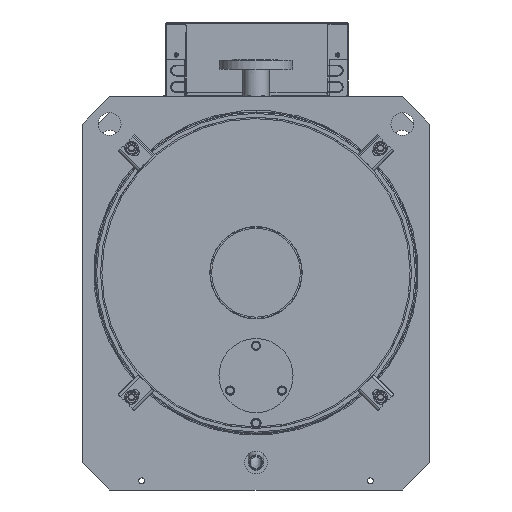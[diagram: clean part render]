
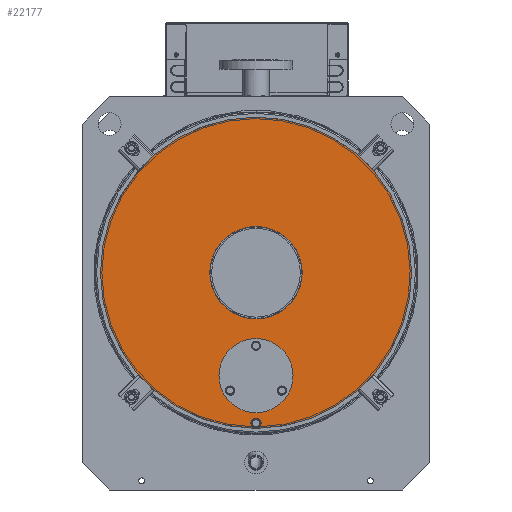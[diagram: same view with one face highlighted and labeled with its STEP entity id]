
A CAD part, left-side view. The second image highlights one B-rep face of the part: STEP entity #22177.
In plain terms, the highlighted planar face has unit normal (-1, 0, 0).
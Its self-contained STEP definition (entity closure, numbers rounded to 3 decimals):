
#22177=ADVANCED_FACE('',(#64227,#64229,#64231),#64233,.T.);
#64227=FACE_BOUND('',#64228,.T.);
#64228=EDGE_LOOP('',(#98627,#98628,#98629,#98630,#98631));
#64229=FACE_BOUND('',#64230,.T.);
#64230=EDGE_LOOP('',(#98632));
#64231=FACE_BOUND('',#64232,.T.);
#64232=EDGE_LOOP('',(#98633));
#64233=PLANE('',#64234);
#64234=AXIS2_PLACEMENT_3D('',#64235,#64236,#64237);
#64235=CARTESIAN_POINT('',(-905.,0.,0.));
#64236=DIRECTION('',(-1.,0.,0.));
#64237=DIRECTION('',(0.,-1.,0.));
#98627=ORIENTED_EDGE('',*,*,#113198,.T.);
#98628=ORIENTED_EDGE('',*,*,#112881,.T.);
#98629=ORIENTED_EDGE('',*,*,#112880,.T.);
#98630=ORIENTED_EDGE('',*,*,#113199,.T.);
#98631=ORIENTED_EDGE('',*,*,#113200,.T.);
#98632=ORIENTED_EDGE('',*,*,#113201,.F.);
#98633=ORIENTED_EDGE('',*,*,#113202,.T.);
#112880=EDGE_CURVE('',#127329,#127327,#127330,.T.);
#112881=EDGE_CURVE('',#127331,#127329,#127332,.T.);
#113198=EDGE_CURVE('',#127821,#127331,#127822,.F.);
#113199=EDGE_CURVE('',#127327,#127823,#127824,.F.);
#113200=EDGE_CURVE('',#127823,#127821,#127825,.F.);
#113201=EDGE_CURVE('',#127826,#127826,#127827,.T.);
#113202=EDGE_CURVE('',#127828,#127828,#127829,.F.);
#127327=VERTEX_POINT('',#166097);
#127329=VERTEX_POINT('',#166101);
#127330=CIRCLE('',#166102,340.);
#127331=VERTEX_POINT('',#166106);
#127332=CIRCLE('',#166107,340.);
#127821=VERTEX_POINT('',#168892);
#127822=LINE('',#168893,#168894);
#127823=VERTEX_POINT('',#168896);
#127824=LINE('',#168897,#168898);
#127825=CIRCLE('',#168900,11.);
#127826=VERTEX_POINT('',#168904);
#127827=CIRCLE('',#168905,81.);
#127828=VERTEX_POINT('',#168909);
#127829=CIRCLE('',#168910,101.);
#166097=CARTESIAN_POINT('',(-905.,4.583,-339.969));
#166101=CARTESIAN_POINT('',(-905.,340.,-0.378));
#166102=AXIS2_PLACEMENT_3D('',#166103,#166104,#166105);
#166103=CARTESIAN_POINT('',(-905.,0.,0.));
#166104=DIRECTION('',(-1.,0.,0.));
#166105=DIRECTION('',(0.,1.,-0.001));
#166106=CARTESIAN_POINT('',(-905.,-4.583,-339.969));
#166107=AXIS2_PLACEMENT_3D('',#166108,#166109,#166110);
#166108=CARTESIAN_POINT('',(-905.,0.,0.));
#166109=DIRECTION('',(-1.,0.,0.));
#166110=DIRECTION('',(0.,-0.013,-1.));
#168892=CARTESIAN_POINT('',(-905.,-4.583,-339.));
#168893=CARTESIAN_POINT('',(-905.,-4.583,-339.969));
#168894=VECTOR('',#168895,1.);
#168895=DIRECTION('',(0.,0.,1.));
#168896=CARTESIAN_POINT('',(-905.,4.583,-339.));
#168897=CARTESIAN_POINT('',(-905.,4.583,-339.));
#168898=VECTOR('',#168899,1.);
#168899=DIRECTION('',(0.,0.,-1.));
#168900=AXIS2_PLACEMENT_3D('',#168901,#168902,#168903);
#168901=CARTESIAN_POINT('',(-905.,0.,-329.));
#168902=DIRECTION('',(-1.,0.,0.));
#168903=DIRECTION('',(0.,-0.417,-0.909));
#168904=CARTESIAN_POINT('',(-905.,-81.,-225.));
#168905=AXIS2_PLACEMENT_3D('',#168906,#168907,#168908);
#168906=CARTESIAN_POINT('',(-905.,0.,-225.));
#168907=DIRECTION('',(-1.,0.,0.));
#168908=DIRECTION('',(0.,-1.,0.));
#168909=CARTESIAN_POINT('',(-905.,-101.,0.));
#168910=AXIS2_PLACEMENT_3D('',#168911,#168912,#168913);
#168911=CARTESIAN_POINT('',(-905.,0.,0.));
#168912=DIRECTION('',(-1.,0.,0.));
#168913=DIRECTION('',(0.,-1.,0.));
